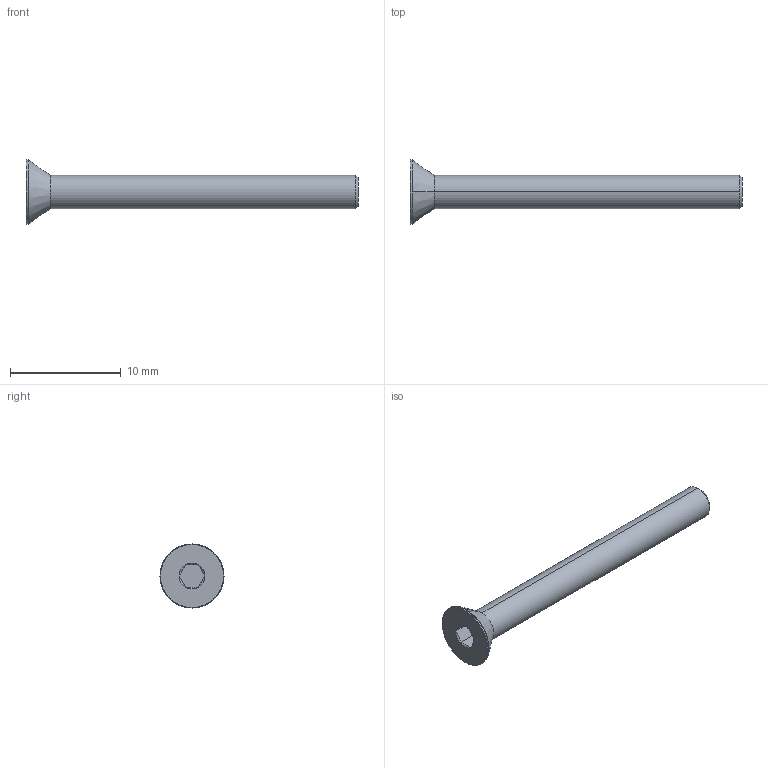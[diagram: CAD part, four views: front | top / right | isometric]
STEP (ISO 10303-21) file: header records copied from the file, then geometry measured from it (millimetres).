
FILE_DESCRIPTION (( 'STEP AP203' ), '1' );
FILE_NAME ('LGDB-304-M3x30.STEP', '2026-08-10T14:06:53', ( '' ), ( '' ), 'SwSTEP 2.0', 'SolidWorks 2020', '' );
FILE_SCHEMA (( 'CONFIG_CONTROL_DESIGN' ));
Length unit declared in the file: millimetre
Products named in the file (1): LGDB-304-M3x30
Bounding box: 30 x 5.8 x 5.8 mm (x, y, z)
Volume: 227.8 mm3; surface area: 341.3 mm2
Topology: 1 solids, 1 shells, 28 faces, 53 edges, 28 vertices
Faces by surface type: cone 11, plane 9, torus 4, cylinder 4
Entity records: 780 total; most frequent: CARTESIAN_POINT 141, DIRECTION 129, ORIENTED_EDGE 106, AXIS2_PLACEMENT_3D 54, EDGE_CURVE 53, EDGE_LOOP 29, ADVANCED_FACE 28, VERTEX_POINT 28
